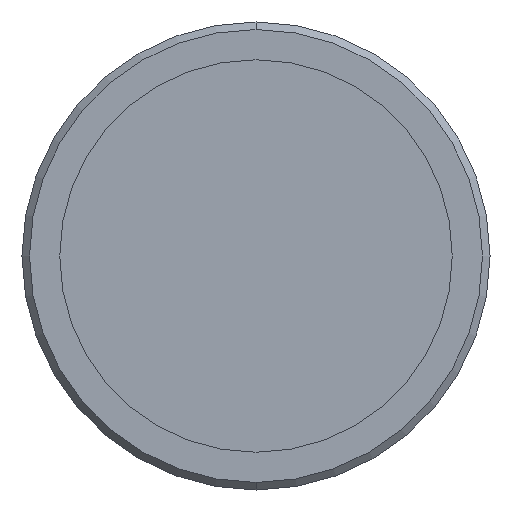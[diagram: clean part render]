
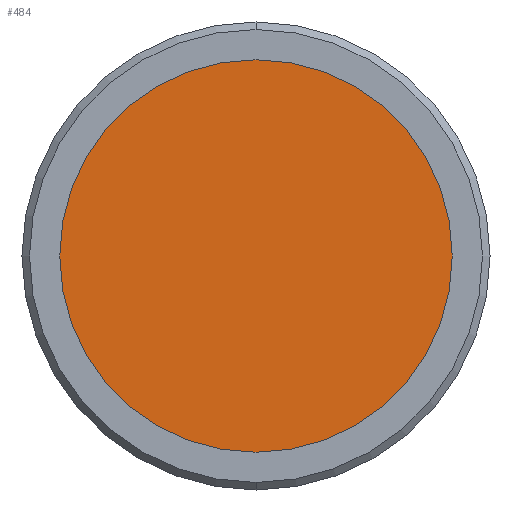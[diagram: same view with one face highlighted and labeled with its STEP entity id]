
A CAD part, front view. The second image highlights one B-rep face of the part: STEP entity #484.
In plain terms, the highlighted planar face has unit normal (0, -1, 0).
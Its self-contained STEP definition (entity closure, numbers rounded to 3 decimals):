
#5 = DIRECTION ( 'NONE',  ( 0., 1., 0. ) ) ;
#15 = DIRECTION ( 'NONE',  ( 0., 0., 1. ) ) ;
#53 = EDGE_LOOP ( 'NONE', ( #71, #137 ) ) ;
#71 = ORIENTED_EDGE ( 'NONE', *, *, #786, .F. ) ;
#125 = DIRECTION ( 'NONE',  ( 0., -1., 0. ) ) ;
#137 = ORIENTED_EDGE ( 'NONE', *, *, #773, .F. ) ;
#277 = CARTESIAN_POINT ( 'NONE',  ( 0., -9., -13. ) ) ;
#439 = CIRCLE ( 'NONE', #654, 13. ) ;
#480 = AXIS2_PLACEMENT_3D ( 'NONE', #1101, #125, #902 ) ;
#484 = ADVANCED_FACE ( 'NONE', ( #959 ), #640, .T. ) ;
#640 = PLANE ( 'NONE',  #480 ) ;
#654 = AXIS2_PLACEMENT_3D ( 'NONE', #1028, #1053, #1092 ) ;
#674 = AXIS2_PLACEMENT_3D ( 'NONE', #1147, #5, #15 ) ;
#757 = VERTEX_POINT ( 'NONE', #849 ) ;
#773 = EDGE_CURVE ( 'NONE', #866, #757, #439, .T. ) ;
#786 = EDGE_CURVE ( 'NONE', #757, #866, #1085, .T. ) ;
#849 = CARTESIAN_POINT ( 'NONE',  ( 0., -9., 13. ) ) ;
#866 = VERTEX_POINT ( 'NONE', #277 ) ;
#902 = DIRECTION ( 'NONE',  ( 0., 0., -1. ) ) ;
#959 = FACE_OUTER_BOUND ( 'NONE', #53, .T. ) ;
#1028 = CARTESIAN_POINT ( 'NONE',  ( 0., -9., 0. ) ) ;
#1053 = DIRECTION ( 'NONE',  ( 0., 1., 0. ) ) ;
#1085 = CIRCLE ( 'NONE', #674, 13. ) ;
#1092 = DIRECTION ( 'NONE',  ( 0., 0., 1. ) ) ;
#1101 = CARTESIAN_POINT ( 'NONE',  ( 0., -9., 0. ) ) ;
#1147 = CARTESIAN_POINT ( 'NONE',  ( 0., -9., 0. ) ) ;
